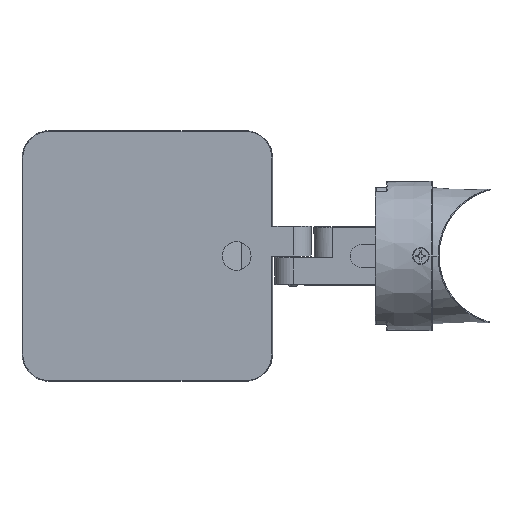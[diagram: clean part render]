
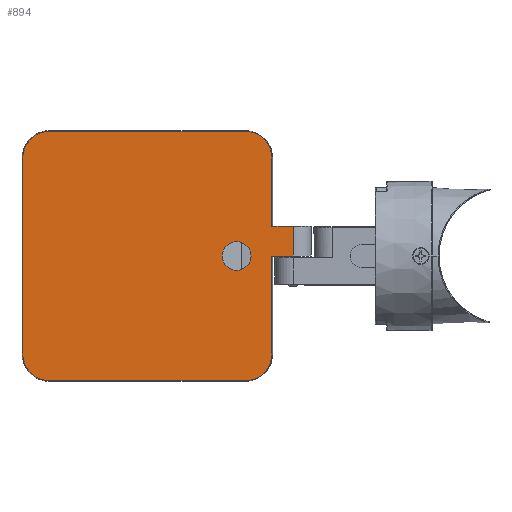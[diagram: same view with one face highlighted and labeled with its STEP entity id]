
A CAD part, front view. The second image highlights one B-rep face of the part: STEP entity #894.
In plain terms, the highlighted planar face has unit normal (0, -1, 0).
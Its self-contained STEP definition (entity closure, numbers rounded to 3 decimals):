
#1=DIRECTION('',(0.,0.,-1.));
#2=VECTOR('',#1,30.);
#3=CARTESIAN_POINT('',(54.686,-12.,43.));
#4=LINE('',#3,#2);
#5=DIRECTION('',(0.,0.,-1.));
#6=VECTOR('',#5,43.);
#7=CARTESIAN_POINT('',(54.686,-12.,0.));
#8=LINE('',#7,#6);
#9=CARTESIAN_POINT('',(43.,-12.,-43.));
#10=DIRECTION('',(0.,-1.,0.));
#11=DIRECTION('',(0.,0.,-1.));
#12=AXIS2_PLACEMENT_3D('',#9,#10,#11);
#14=DIRECTION('',(-1.,0.,0.));
#15=VECTOR('',#14,86.);
#16=CARTESIAN_POINT('',(43.,-12.,-54.686));
#17=LINE('',#16,#15);
#18=CARTESIAN_POINT('',(-43.,-12.,-43.));
#19=DIRECTION('',(0.,-1.,0.));
#20=DIRECTION('',(-1.,0.,0.));
#21=AXIS2_PLACEMENT_3D('',#18,#19,#20);
#23=DIRECTION('',(0.,0.,1.));
#24=VECTOR('',#23,86.);
#25=CARTESIAN_POINT('',(-54.686,-12.,-43.));
#26=LINE('',#25,#24);
#27=CARTESIAN_POINT('',(-43.,-12.,43.));
#28=DIRECTION('',(0.,-1.,0.));
#29=DIRECTION('',(0.,0.,1.));
#30=AXIS2_PLACEMENT_3D('',#27,#28,#29);
#32=DIRECTION('',(1.,0.,0.));
#33=VECTOR('',#32,86.);
#34=CARTESIAN_POINT('',(-43.,-12.,54.686));
#35=LINE('',#34,#33);
#36=CARTESIAN_POINT('',(43.,-12.,43.));
#37=DIRECTION('',(0.,-1.,0.));
#38=DIRECTION('',(1.,0.,0.));
#39=AXIS2_PLACEMENT_3D('',#36,#37,#38);
#41=CARTESIAN_POINT('',(39.2,-12.,0.));
#42=DIRECTION('',(0.,-1.,0.));
#43=DIRECTION('',(0.,0.,1.));
#44=AXIS2_PLACEMENT_3D('',#41,#42,#43);
#46=CARTESIAN_POINT('',(39.2,-12.,0.));
#47=DIRECTION('',(0.,-1.,0.));
#48=DIRECTION('',(0.,0.,-1.));
#49=AXIS2_PLACEMENT_3D('',#46,#47,#48);
#289=DIRECTION('',(1.,0.,0.));
#290=VECTOR('',#289,9.314);
#291=CARTESIAN_POINT('',(54.686,-12.,0.));
#292=LINE('',#291,#290);
#321=DIRECTION('',(1.,0.,0.));
#322=VECTOR('',#321,9.314);
#323=CARTESIAN_POINT('',(54.686,-12.,13.));
#324=LINE('',#323,#322);
#335=DIRECTION('',(0.,0.,1.));
#336=VECTOR('',#335,13.);
#337=CARTESIAN_POINT('',(64.,-12.,0.));
#338=LINE('',#337,#336);
#693=CARTESIAN_POINT('',(64.,-12.,0.));
#695=VERTEX_POINT('',#693);
#697=CARTESIAN_POINT('',(64.,-12.,13.));
#699=VERTEX_POINT('',#697);
#713=CARTESIAN_POINT('',(39.2,-12.,6.3));
#714=CARTESIAN_POINT('',(39.2,-12.,-6.3));
#715=VERTEX_POINT('',#713);
#716=VERTEX_POINT('',#714);
#721=CARTESIAN_POINT('',(-43.,-12.,54.686));
#722=CARTESIAN_POINT('',(-54.686,-12.,43.));
#723=VERTEX_POINT('',#721);
#724=VERTEX_POINT('',#722);
#729=CARTESIAN_POINT('',(-54.686,-12.,-43.));
#730=CARTESIAN_POINT('',(-43.,-12.,-54.686));
#731=VERTEX_POINT('',#729);
#732=VERTEX_POINT('',#730);
#737=CARTESIAN_POINT('',(54.686,-12.,43.));
#738=CARTESIAN_POINT('',(43.,-12.,54.686));
#739=VERTEX_POINT('',#737);
#740=VERTEX_POINT('',#738);
#745=CARTESIAN_POINT('',(43.,-12.,-54.686));
#746=CARTESIAN_POINT('',(54.686,-12.,-43.));
#747=VERTEX_POINT('',#745);
#748=VERTEX_POINT('',#746);
#753=CARTESIAN_POINT('',(54.686,-12.,0.));
#755=VERTEX_POINT('',#753);
#757=CARTESIAN_POINT('',(54.686,-12.,13.));
#759=VERTEX_POINT('',#757);
#857=CARTESIAN_POINT('',(0.,-12.,0.));
#858=DIRECTION('',(0.,1.,0.));
#859=DIRECTION('',(0.,0.,-1.));
#860=AXIS2_PLACEMENT_3D('',#857,#858,#859);
#861=PLANE('',#860);
#863=ORIENTED_EDGE('',*,*,#862,.T.);
#865=ORIENTED_EDGE('',*,*,#864,.T.);
#867=ORIENTED_EDGE('',*,*,#866,.F.);
#869=ORIENTED_EDGE('',*,*,#868,.F.);
#871=ORIENTED_EDGE('',*,*,#870,.T.);
#873=ORIENTED_EDGE('',*,*,#872,.F.);
#875=ORIENTED_EDGE('',*,*,#874,.T.);
#877=ORIENTED_EDGE('',*,*,#876,.F.);
#879=ORIENTED_EDGE('',*,*,#878,.T.);
#881=ORIENTED_EDGE('',*,*,#880,.F.);
#883=ORIENTED_EDGE('',*,*,#882,.T.);
#885=ORIENTED_EDGE('',*,*,#884,.F.);
#886=EDGE_LOOP('',(#863,#865,#867,#869,#871,#873,#875,#877,#879,#881,#883,
#885));
#887=FACE_OUTER_BOUND('',#886,.F.);
#889=ORIENTED_EDGE('',*,*,#888,.T.);
#891=ORIENTED_EDGE('',*,*,#890,.T.);
#892=EDGE_LOOP('',(#889,#891));
#893=FACE_BOUND('',#892,.F.);
#894=ADVANCED_FACE('',(#887,#893),#861,.F.);
#13=CIRCLE('',#12,11.686);
#22=CIRCLE('',#21,11.686);
#31=CIRCLE('',#30,11.686);
#40=CIRCLE('',#39,11.686);
#45=CIRCLE('',#44,6.3);
#50=CIRCLE('',#49,6.3);
#862=EDGE_CURVE('',#739,#759,#4,.T.);
#864=EDGE_CURVE('',#759,#699,#324,.T.);
#866=EDGE_CURVE('',#695,#699,#338,.T.);
#868=EDGE_CURVE('',#755,#695,#292,.T.);
#870=EDGE_CURVE('',#755,#748,#8,.T.);
#872=EDGE_CURVE('',#747,#748,#13,.T.);
#874=EDGE_CURVE('',#747,#732,#17,.T.);
#876=EDGE_CURVE('',#731,#732,#22,.T.);
#878=EDGE_CURVE('',#731,#724,#26,.T.);
#880=EDGE_CURVE('',#723,#724,#31,.T.);
#882=EDGE_CURVE('',#723,#740,#35,.T.);
#884=EDGE_CURVE('',#739,#740,#40,.T.);
#888=EDGE_CURVE('',#715,#716,#45,.T.);
#890=EDGE_CURVE('',#716,#715,#50,.T.);
